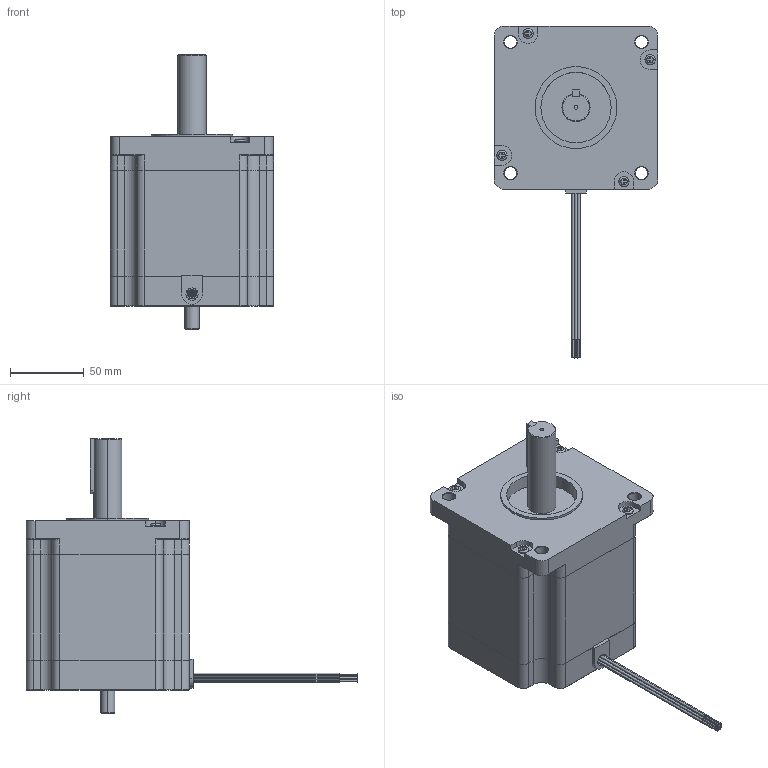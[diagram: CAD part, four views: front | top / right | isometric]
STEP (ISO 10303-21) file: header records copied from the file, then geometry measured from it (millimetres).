
FILE_DESCRIPTION (( 'STEP AP214' ), '1' );
FILE_NAME ('42Y102D-LW8.STEP', '2010-06-11T15:38:22', ( 'Tim Raines' ), ( 'Anaheim Automation' ), 'SwSTEP 2.0', 'SolidWorks 2010', '' );
FILE_SCHEMA (( 'AUTOMOTIVE_DESIGN' ));
Length unit declared in the file: inch
Products named in the file (1): 42Y102D-LW8
Bounding box: 110.62 x 224.92 x 186.36 mm (x, y, z)
Volume: 1276179.6 mm3; surface area: 85818.1 mm2
Topology: 1 solids, 1 shells, 372 faces, 933 edges, 587 vertices
Faces by surface type: plane 178, cylinder 125, cone 61, torus 8
Entity records: 16056 total; most frequent: CARTESIAN_POINT 2195, DIRECTION 1918, ORIENTED_EDGE 1842, EDGE_CURVE 921, AXIS2_PLACEMENT_3D 694, VERTEX_POINT 587, VECTOR 530, LINE 530
